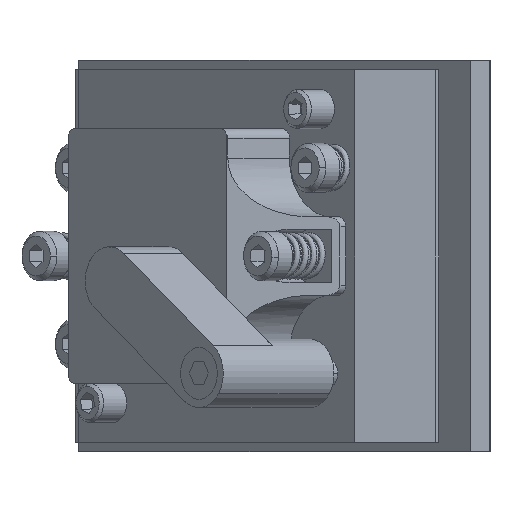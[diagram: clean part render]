
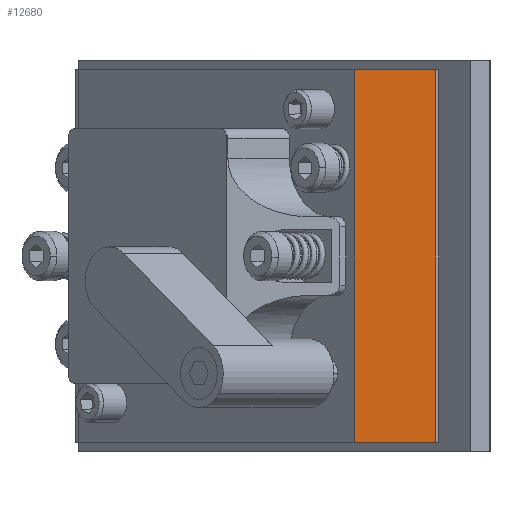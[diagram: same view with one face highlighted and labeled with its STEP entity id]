
A CAD part, left-side view. The second image highlights one B-rep face of the part: STEP entity #12680.
In plain terms, the highlighted planar face has unit normal (-0.999, 0.041, 0).
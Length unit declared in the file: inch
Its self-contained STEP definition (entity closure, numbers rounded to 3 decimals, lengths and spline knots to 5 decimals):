
#76 = CARTESIAN_POINT ( 'NONE',  ( -1.37454, -0.38616, 1.1875 ) ) ;
#362 = VECTOR ( 'NONE', #30197, 39.37008 ) ;
#2639 = VERTEX_POINT ( 'NONE', #14764 ) ;
#3713 = LINE ( 'NONE', #3816, #362 ) ;
#3816 = CARTESIAN_POINT ( 'NONE',  ( -1.37454, -0.38616, 1.1875 ) ) ;
#4251 = VERTEX_POINT ( 'NONE', #27013 ) ;
#5106 = VECTOR ( 'NONE', #29626, 39.37008 ) ;
#7350 = CARTESIAN_POINT ( 'NONE',  ( -1.37454, -0.38616, 1.1875 ) ) ;
#8589 = PLANE ( 'NONE',  #49155 ) ;
#8776 = DIRECTION ( 'NONE',  ( 0.999, -0.041, 0. ) ) ;
#9255 = VECTOR ( 'NONE', #38901, 39.37008 ) ;
#9481 = FACE_OUTER_BOUND ( 'NONE', #25892, .T. ) ;
#11839 = VERTEX_POINT ( 'NONE', #12030 ) ;
#12030 = CARTESIAN_POINT ( 'NONE',  ( -1.39575, -0.90235, -1.1875 ) ) ;
#12680 = ADVANCED_FACE ( 'NONE', ( #9481 ), #8589, .F. ) ;
#13537 = ORIENTED_EDGE ( 'NONE', *, *, #29334, .T. ) ;
#14460 = EDGE_CURVE ( 'NONE', #19665, #4251, #27000, .T. ) ;
#14764 = CARTESIAN_POINT ( 'NONE',  ( -1.37454, -0.38616, -1.1875 ) ) ;
#16505 = ORIENTED_EDGE ( 'NONE', *, *, #28814, .F. ) ;
#19254 = DIRECTION ( 'NONE',  ( 0.041, 0.999, 0. ) ) ;
#19665 = VERTEX_POINT ( 'NONE', #7350 ) ;
#20764 = CARTESIAN_POINT ( 'NONE',  ( -1.37454, -0.38616, -1.1875 ) ) ;
#21223 = LINE ( 'NONE', #37556, #5106 ) ;
#25892 = EDGE_LOOP ( 'NONE', ( #53129, #16505, #28178, #13537 ) ) ;
#27000 = LINE ( 'NONE', #41621, #47287 ) ;
#27013 = CARTESIAN_POINT ( 'NONE',  ( -1.39575, -0.90235, 1.1875 ) ) ;
#28178 = ORIENTED_EDGE ( 'NONE', *, *, #14460, .F. ) ;
#28754 = DIRECTION ( 'NONE',  ( -0.041, -0.999, 0. ) ) ;
#28814 = EDGE_CURVE ( 'NONE', #4251, #11839, #21223, .T. ) ;
#29334 = EDGE_CURVE ( 'NONE', #19665, #2639, #3713, .T. ) ;
#29626 = DIRECTION ( 'NONE',  ( 0., 0., -1. ) ) ;
#30197 = DIRECTION ( 'NONE',  ( 0., 0., -1. ) ) ;
#32148 = LINE ( 'NONE', #20764, #9255 ) ;
#37556 = CARTESIAN_POINT ( 'NONE',  ( -1.39575, -0.90235, 1.1875 ) ) ;
#38901 = DIRECTION ( 'NONE',  ( -0.041, -0.999, 0. ) ) ;
#41621 = CARTESIAN_POINT ( 'NONE',  ( -1.37454, -0.38616, 1.1875 ) ) ;
#44593 = EDGE_CURVE ( 'NONE', #2639, #11839, #32148, .T. ) ;
#47287 = VECTOR ( 'NONE', #28754, 39.37008 ) ;
#49155 = AXIS2_PLACEMENT_3D ( 'NONE', #76, #8776, #19254 ) ;
#53129 = ORIENTED_EDGE ( 'NONE', *, *, #44593, .T. ) ;
